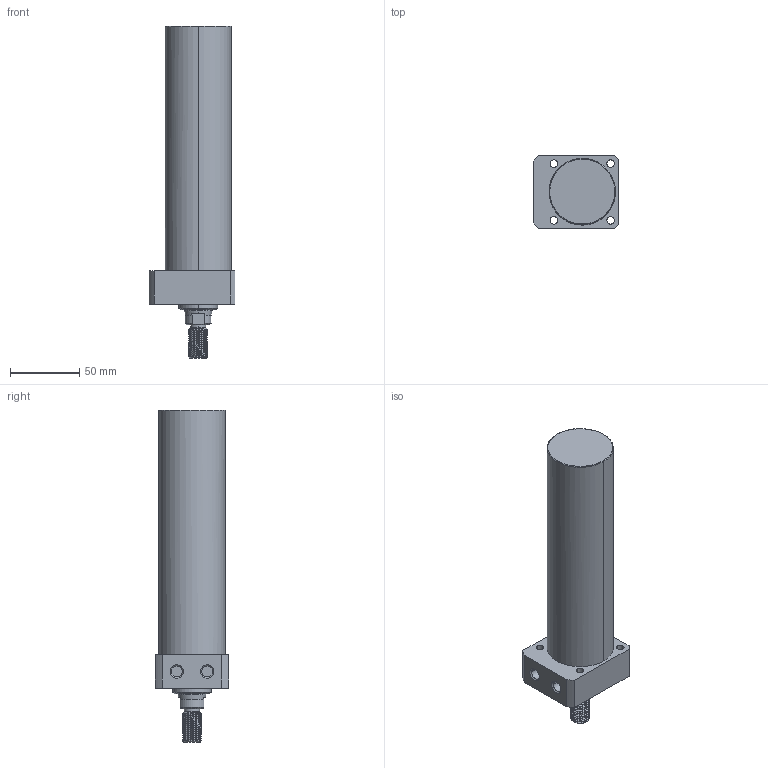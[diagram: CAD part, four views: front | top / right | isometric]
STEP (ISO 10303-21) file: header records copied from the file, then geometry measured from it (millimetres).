
FILE_DESCRIPTION((' '),'2;1');
FILE_NAME( 'TLLR-048CT-150.STEP.stp', '2025-10-24T16:34:39', (' '), ('--- Datakit www.datakit.com---'), ' Datakit CrossCadWare V2024.1 Dec 21 2023', 'Mastercam 2025', ' ');
FILE_SCHEMA(('AUTOMOTIVE_DESIGN { 1 0 10303 214 1 1 1 1 }'));
Length unit declared in the file: millimetre
Products named in the file (1): TLLR-048CT-150
Bounding box: 62 x 53 x 240 mm (x, y, z)
Volume: 403306.7 mm3; surface area: 43296.1 mm2
Topology: 1 solids, 1 shells, 96 faces, 329 edges, 243 vertices
Faces by surface type: cylinder 56, plane 20, cone 16, bspline 2, torus 2
Entity records: 10032 total; most frequent: CARTESIAN_POINT 7136, ORIENTED_EDGE 658, DIRECTION 499, EDGE_CURVE 329, VERTEX_POINT 243, AXIS2_PLACEMENT_3D 204, B_SPLINE_CURVE_WITH_KNOTS 129, EDGE_LOOP 112
